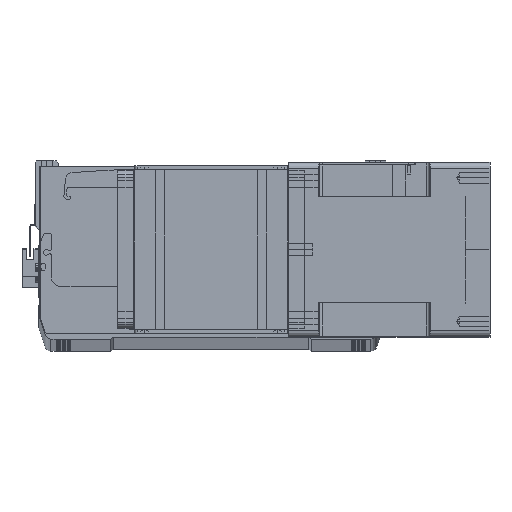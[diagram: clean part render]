
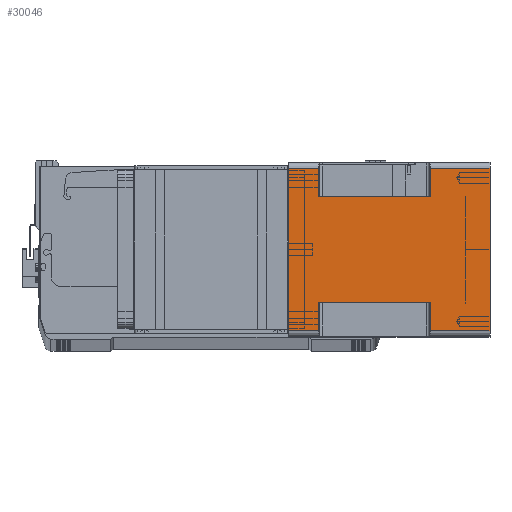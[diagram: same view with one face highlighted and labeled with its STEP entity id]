
A CAD part, top view. The second image highlights one B-rep face of the part: STEP entity #30046.
In plain terms, the highlighted planar face has unit normal (0, 0, 1) as drawn and (1, 0, 0) by its records, which use the part's own axes.
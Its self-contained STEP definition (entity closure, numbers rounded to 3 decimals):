
#426 = CARTESIAN_POINT ( 'NONE',  ( 71., 43., -115.5 ) ) ;
#437 = VECTOR ( 'NONE', #7915, 1000. ) ;
#983 = VECTOR ( 'NONE', #1678, 1000. ) ;
#1678 = DIRECTION ( 'NONE',  ( 0., 1., 0. ) ) ;
#2049 = VERTEX_POINT ( 'NONE', #34379 ) ;
#2473 = CARTESIAN_POINT ( 'NONE',  ( 71., 43., -164. ) ) ;
#2477 = VECTOR ( 'NONE', #13262, 1000. ) ;
#3109 = VERTEX_POINT ( 'NONE', #22855 ) ;
#4563 = CARTESIAN_POINT ( 'NONE',  ( 71., -66., -164. ) ) ;
#4824 = CARTESIAN_POINT ( 'NONE',  ( 71., -66., -164. ) ) ;
#4846 = DIRECTION ( 'NONE',  ( 1., 0., 0. ) ) ;
#4925 = ORIENTED_EDGE ( 'NONE', *, *, #37177, .T. ) ;
#5446 = CARTESIAN_POINT ( 'NONE',  ( 71., 66., -164. ) ) ;
#5849 = DIRECTION ( 'NONE',  ( 0., 0., -1. ) ) ;
#5894 = LINE ( 'NONE', #7720, #37935 ) ;
#5933 = VERTEX_POINT ( 'NONE', #21854 ) ;
#6123 = ORIENTED_EDGE ( 'NONE', *, *, #12780, .T. ) ;
#6985 = LINE ( 'NONE', #13124, #2477 ) ;
#7720 = CARTESIAN_POINT ( 'NONE',  ( 71., 66., -164. ) ) ;
#7915 = DIRECTION ( 'NONE',  ( 0., 1., 0. ) ) ;
#7977 = LINE ( 'NONE', #24575, #28023 ) ;
#8150 = DIRECTION ( 'NONE',  ( 0., 0., 1. ) ) ;
#8780 = VECTOR ( 'NONE', #23146, 1000. ) ;
#9343 = VERTEX_POINT ( 'NONE', #32901 ) ;
#9563 = EDGE_CURVE ( 'NONE', #30441, #26438, #40641, .T. ) ;
#9952 = EDGE_CURVE ( 'NONE', #28814, #14025, #39524, .T. ) ;
#10105 = DIRECTION ( 'NONE',  ( 0., 0., 1. ) ) ;
#10350 = EDGE_CURVE ( 'NONE', #9343, #15136, #35359, .T. ) ;
#10709 = ORIENTED_EDGE ( 'NONE', *, *, #40479, .T. ) ;
#11544 = ORIENTED_EDGE ( 'NONE', *, *, #27445, .F. ) ;
#12565 = EDGE_CURVE ( 'NONE', #3109, #17424, #23069, .T. ) ;
#12780 = EDGE_CURVE ( 'NONE', #2049, #22515, #6985, .T. ) ;
#13124 = CARTESIAN_POINT ( 'NONE',  ( 71., -66., -115.5 ) ) ;
#13262 = DIRECTION ( 'NONE',  ( 0., -1., 0. ) ) ;
#14025 = VERTEX_POINT ( 'NONE', #17172 ) ;
#14319 = LINE ( 'NONE', #40645, #16312 ) ;
#14459 = DIRECTION ( 'NONE',  ( 0., 0., 1. ) ) ;
#14478 = VECTOR ( 'NONE', #41495, 1000. ) ;
#14996 = VECTOR ( 'NONE', #10105, 1000. ) ;
#15136 = VERTEX_POINT ( 'NONE', #17790 ) ;
#15142 = DIRECTION ( 'NONE',  ( 0., 1., 0. ) ) ;
#15820 = CARTESIAN_POINT ( 'NONE',  ( 71., -43., -24.5 ) ) ;
#16086 = EDGE_CURVE ( 'NONE', #3109, #22515, #19486, .T. ) ;
#16312 = VECTOR ( 'NONE', #15142, 1000. ) ;
#17172 = CARTESIAN_POINT ( 'NONE',  ( 71., -66., 0. ) ) ;
#17424 = VERTEX_POINT ( 'NONE', #5446 ) ;
#17613 = CARTESIAN_POINT ( 'NONE',  ( 71., -66., -164. ) ) ;
#17790 = CARTESIAN_POINT ( 'NONE',  ( 71., 66., 0. ) ) ;
#17969 = ORIENTED_EDGE ( 'NONE', *, *, #16086, .F. ) ;
#18071 = DIRECTION ( 'NONE',  ( 0., -1., 0. ) ) ;
#18414 = EDGE_CURVE ( 'NONE', #14025, #15136, #14319, .T. ) ;
#18979 = LINE ( 'NONE', #27112, #437 ) ;
#19335 = CARTESIAN_POINT ( 'NONE',  ( 71., -66., -164. ) ) ;
#19486 = LINE ( 'NONE', #19335, #14996 ) ;
#21854 = CARTESIAN_POINT ( 'NONE',  ( 71., 66., -115.5 ) ) ;
#22515 = VERTEX_POINT ( 'NONE', #38481 ) ;
#22584 = ORIENTED_EDGE ( 'NONE', *, *, #18414, .F. ) ;
#22618 = CARTESIAN_POINT ( 'NONE',  ( 71., 43., -24.5 ) ) ;
#22855 = CARTESIAN_POINT ( 'NONE',  ( 71., -66., -164. ) ) ;
#23069 = LINE ( 'NONE', #17613, #983 ) ;
#23086 = AXIS2_PLACEMENT_3D ( 'NONE', #4563, #4846, #37048 ) ;
#23146 = DIRECTION ( 'NONE',  ( 0., 0., 1. ) ) ;
#23506 = ORIENTED_EDGE ( 'NONE', *, *, #10350, .T. ) ;
#23667 = ORIENTED_EDGE ( 'NONE', *, *, #36551, .T. ) ;
#24289 = FACE_OUTER_BOUND ( 'NONE', #28670, .T. ) ;
#24575 = CARTESIAN_POINT ( 'NONE',  ( 71., 43., -115.5 ) ) ;
#25978 = ORIENTED_EDGE ( 'NONE', *, *, #36720, .T. ) ;
#26028 = VERTEX_POINT ( 'NONE', #36260 ) ;
#26336 = ORIENTED_EDGE ( 'NONE', *, *, #9952, .F. ) ;
#26438 = VERTEX_POINT ( 'NONE', #426 ) ;
#27112 = CARTESIAN_POINT ( 'NONE',  ( 71., -66., -24.5 ) ) ;
#27445 = EDGE_CURVE ( 'NONE', #2049, #26028, #29042, .T. ) ;
#28023 = VECTOR ( 'NONE', #18071, 1000. ) ;
#28670 = EDGE_LOOP ( 'NONE', ( #11544, #6123, #17969, #41601, #4925, #25978, #34360, #23667, #23506, #22584, #26336, #10709 ) ) ;
#28814 = VERTEX_POINT ( 'NONE', #32715 ) ;
#29042 = LINE ( 'NONE', #38602, #30529 ) ;
#29789 = PLANE ( 'NONE',  #23086 ) ;
#30046 = ADVANCED_FACE ( 'NONE', ( #24289 ), #29789, .T. ) ;
#30441 = VERTEX_POINT ( 'NONE', #22618 ) ;
#30529 = VECTOR ( 'NONE', #38328, 1000. ) ;
#32715 = CARTESIAN_POINT ( 'NONE',  ( 71., -66., -24.5 ) ) ;
#32901 = CARTESIAN_POINT ( 'NONE',  ( 71., 66., -24.5 ) ) ;
#33587 = LINE ( 'NONE', #15820, #14478 ) ;
#34360 = ORIENTED_EDGE ( 'NONE', *, *, #9563, .F. ) ;
#34379 = CARTESIAN_POINT ( 'NONE',  ( 71., -43., -115.5 ) ) ;
#34636 = VECTOR ( 'NONE', #5849, 1000. ) ;
#35359 = LINE ( 'NONE', #39070, #8780 ) ;
#36260 = CARTESIAN_POINT ( 'NONE',  ( 71., -43., -24.5 ) ) ;
#36551 = EDGE_CURVE ( 'NONE', #30441, #9343, #18979, .T. ) ;
#36720 = EDGE_CURVE ( 'NONE', #5933, #26438, #7977, .T. ) ;
#37048 = DIRECTION ( 'NONE',  ( 0., 1., 0. ) ) ;
#37177 = EDGE_CURVE ( 'NONE', #17424, #5933, #5894, .T. ) ;
#37935 = VECTOR ( 'NONE', #8150, 1000. ) ;
#38328 = DIRECTION ( 'NONE',  ( 0., 0., 1. ) ) ;
#38481 = CARTESIAN_POINT ( 'NONE',  ( 71., -66., -115.5 ) ) ;
#38602 = CARTESIAN_POINT ( 'NONE',  ( 71., -43., -164. ) ) ;
#39070 = CARTESIAN_POINT ( 'NONE',  ( 71., 66., -164. ) ) ;
#39481 = VECTOR ( 'NONE', #14459, 1000. ) ;
#39524 = LINE ( 'NONE', #4824, #39481 ) ;
#40479 = EDGE_CURVE ( 'NONE', #28814, #26028, #33587, .T. ) ;
#40641 = LINE ( 'NONE', #2473, #34636 ) ;
#40645 = CARTESIAN_POINT ( 'NONE',  ( 71., -66., 0. ) ) ;
#41495 = DIRECTION ( 'NONE',  ( 0., 1., 0. ) ) ;
#41601 = ORIENTED_EDGE ( 'NONE', *, *, #12565, .T. ) ;
